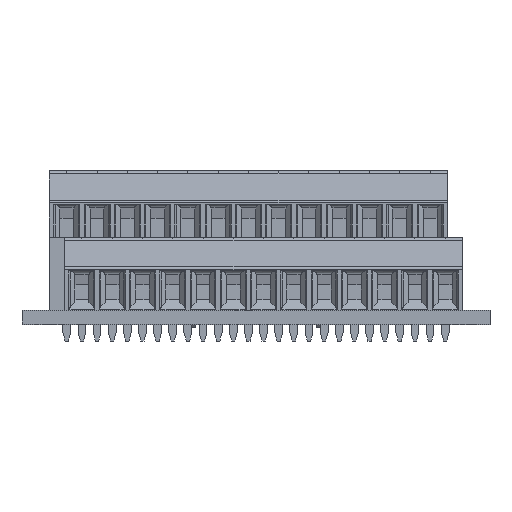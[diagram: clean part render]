
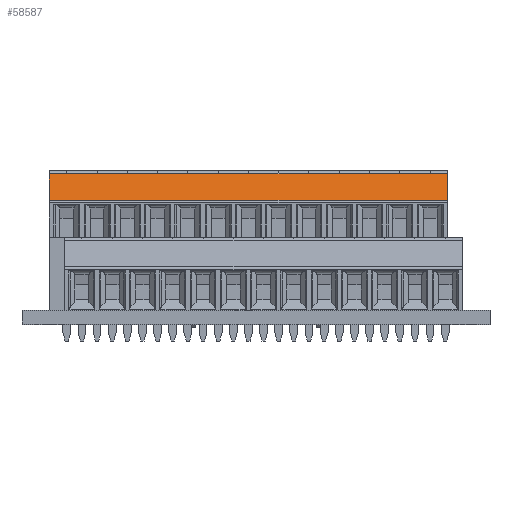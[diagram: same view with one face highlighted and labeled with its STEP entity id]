
A CAD part, top view. The second image highlights one B-rep face of the part: STEP entity #58587.
In plain terms, the highlighted planar face has unit normal (0, 0.259, 0.966) as drawn and (0.966, 0.259, 0) by its records, which use the part's own axes.
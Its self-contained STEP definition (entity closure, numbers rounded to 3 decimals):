
#39356=DIRECTION('',(0.259,-0.966,0.));
#39357=VECTOR('',#39356,3.136);
#39358=CARTESIAN_POINT('',(-38.406,36.651,-44.25));
#39359=LINE('',#39358,#39357);
#41432=DIRECTION('',(-0.259,0.966,0.));
#41433=VECTOR('',#41432,3.136);
#41434=CARTESIAN_POINT('',(-37.594,33.621,1.75));
#41435=LINE('',#41434,#41433);
#42369=DIRECTION('',(0.,0.,-1.));
#42370=VECTOR('',#42369,46.);
#42371=CARTESIAN_POINT('',(-38.406,36.651,1.75));
#42372=LINE('',#42371,#42370);
#42377=DIRECTION('',(0.,0.,-1.));
#42378=VECTOR('',#42377,46.);
#42379=CARTESIAN_POINT('',(-37.594,33.621,1.75));
#42380=LINE('',#42379,#42378);
#52374=CARTESIAN_POINT('',(-38.406,36.651,1.75));
#52375=VERTEX_POINT('',#52374);
#52376=CARTESIAN_POINT('',(-37.594,33.621,1.75));
#52377=VERTEX_POINT('',#52376);
#54763=CARTESIAN_POINT('',(-38.406,36.651,-44.25));
#54764=CARTESIAN_POINT('',(-37.594,33.621,-44.25));
#54765=VERTEX_POINT('',#54763);
#54766=VERTEX_POINT('',#54764);
#58575=CARTESIAN_POINT('',(-38.406,36.651,-31.75));
#58576=DIRECTION('',(0.966,0.259,0.));
#58577=DIRECTION('',(-0.259,0.966,0.));
#58578=AXIS2_PLACEMENT_3D('',#58575,#58576,#58577);
#58579=PLANE('',#58578);
#58580=ORIENTED_EDGE('',*,*,#58567,.T.);
#58581=ORIENTED_EDGE('',*,*,#55693,.T.);
#58583=ORIENTED_EDGE('',*,*,#58582,.F.);
#58584=ORIENTED_EDGE('',*,*,#58289,.T.);
#58585=EDGE_LOOP('',(#58580,#58581,#58583,#58584));
#58586=FACE_OUTER_BOUND('',#58585,.F.);
#58587=ADVANCED_FACE('',(#58586),#58579,.T.);
#55693=EDGE_CURVE('',#54765,#54766,#39359,.T.);
#58289=EDGE_CURVE('',#52377,#52375,#41435,.T.);
#58567=EDGE_CURVE('',#52375,#54765,#42372,.T.);
#58582=EDGE_CURVE('',#52377,#54766,#42380,.T.);
